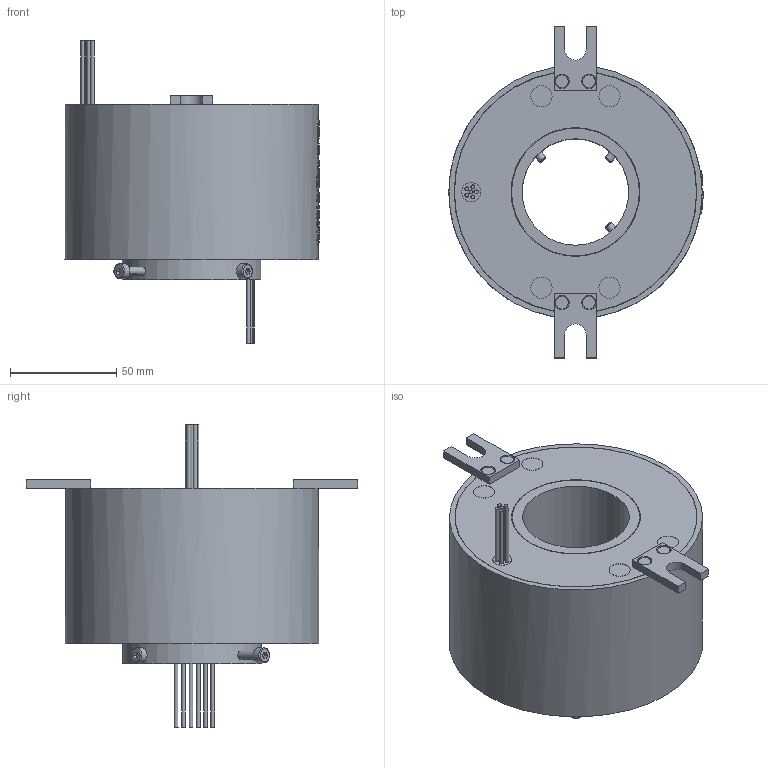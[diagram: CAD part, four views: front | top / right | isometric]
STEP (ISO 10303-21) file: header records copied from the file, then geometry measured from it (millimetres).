
FILE_DESCRIPTION(/* description */ (''),/* implementation_level */ '2;1');
FILE_NAME(/* name */ 'YDF50119-0610-3D模型.stp',/* time_stamp */ '2025-09-11T17:48:54+08:00',/* author */ (''),/* organization */ (''),/* preprocessor_version */ 'ST-DEVELOPER v16.7',/* originating_system */ 'SIEMENS PLM Software NX 12.0',/* authorisation */ '');
FILE_SCHEMA (('AUTOMOTIVE_DESIGN { 1 0 10303 214 3 1 1 1 }'));
Length unit declared in the file: millimetre
Products named in the file (1): Admi3178C071egl2
Bounding box: 119.5 x 156 x 142.1 mm (x, y, z)
Volume: 686831.9 mm3; surface area: 67055.2 mm2
Topology: 1 solids, 5 shells, 902 faces, 2414 edges, 1607 vertices
Faces by surface type: extrusion 452, plane 327, cylinder 74, bspline 33, cone 12, torus 4
Full cylindrical faces by diameter (mm): 1.8 x12, 3 x4, 3.4 x1, 3.5 x4, 4 x7, 6 x4, 7 x4, 9 x1, 10 x4, 50 x1, 60 x1, 60.5 x1, 65 x1, 113.8 x2, 114 x2, 119 x1
Entity records: 35827 total; most frequent: CARTESIAN_POINT 16993, ORIENTED_EDGE 4628, EDGE_CURVE 2314, B_SPLINE_CURVE_WITH_KNOTS 2203, DIRECTION 2132, VERTEX_POINT 1575, EDGE_LOOP 1069, ADVANCED_FACE 902
